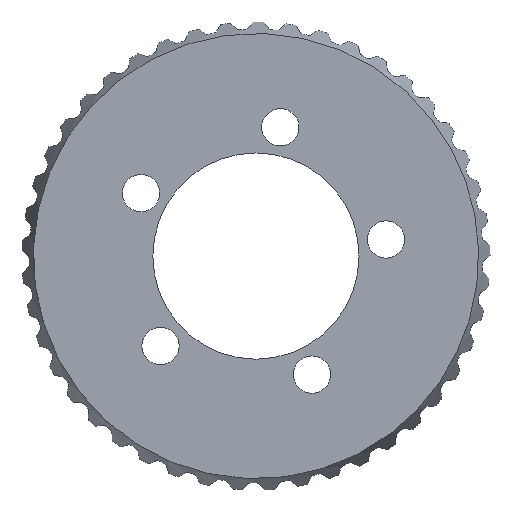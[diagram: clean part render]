
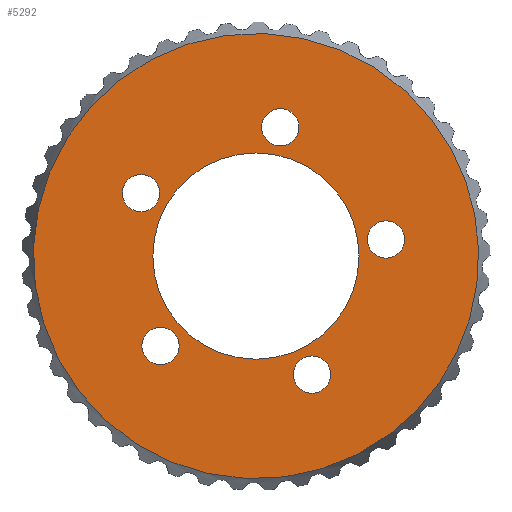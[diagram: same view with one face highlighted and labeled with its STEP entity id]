
A CAD part, front view. The second image highlights one B-rep face of the part: STEP entity #5292.
In plain terms, the highlighted planar face has unit normal (0, -1, 0).
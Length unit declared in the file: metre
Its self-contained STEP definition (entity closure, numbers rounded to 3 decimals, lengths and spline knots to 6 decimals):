
#109=PLANE('',#5831);
#1590=ORIENTED_EDGE('',*,*,#3449,.F.);
#1591=ORIENTED_EDGE('',*,*,#3450,.F.);
#1592=ORIENTED_EDGE('',*,*,#3451,.F.);
#1593=ORIENTED_EDGE('',*,*,#3452,.F.);
#1594=ORIENTED_EDGE('',*,*,#3453,.F.);
#1595=ORIENTED_EDGE('',*,*,#2794,.F.);
#1596=ORIENTED_EDGE('',*,*,#3454,.T.);
#2794=EDGE_CURVE('',#3726,#3726,#4385,.T.);
#3449=EDGE_CURVE('',#4379,#4379,#4629,.T.);
#3450=EDGE_CURVE('',#4380,#4380,#4630,.T.);
#3451=EDGE_CURVE('',#4381,#4381,#4631,.T.);
#3452=EDGE_CURVE('',#4382,#4382,#4632,.T.);
#3453=EDGE_CURVE('',#4383,#4383,#4633,.T.);
#3454=EDGE_CURVE('',#4384,#4384,#4634,.F.);
#3726=VERTEX_POINT('',#6774);
#4379=VERTEX_POINT('',#9394);
#4380=VERTEX_POINT('',#9396);
#4381=VERTEX_POINT('',#9398);
#4382=VERTEX_POINT('',#9400);
#4383=VERTEX_POINT('',#9402);
#4384=VERTEX_POINT('',#9404);
#4385=CIRCLE('',#5585,0.019198);
#4629=CIRCLE('',#5832,0.001607);
#4630=CIRCLE('',#5833,0.001607);
#4631=CIRCLE('',#5834,0.001607);
#4632=CIRCLE('',#5835,0.001607);
#4633=CIRCLE('',#5836,0.001607);
#4634=CIRCLE('',#5837,0.00889);
#4647=EDGE_LOOP('',(#1590));
#4648=EDGE_LOOP('',(#1591));
#4649=EDGE_LOOP('',(#1592));
#4650=EDGE_LOOP('',(#1593));
#4651=EDGE_LOOP('',(#1594));
#4652=EDGE_LOOP('',(#1595));
#4653=EDGE_LOOP('',(#1596));
#4950=FACE_BOUND('',#4647,.T.);
#4951=FACE_BOUND('',#4648,.T.);
#4952=FACE_BOUND('',#4649,.T.);
#4953=FACE_BOUND('',#4650,.T.);
#4954=FACE_BOUND('',#4651,.T.);
#4955=FACE_BOUND('',#4652,.T.);
#4956=FACE_BOUND('',#4653,.T.);
#5292=ADVANCED_FACE('',(#4950,#4951,#4952,#4953,#4954,#4955,#4956),#109,
 .T.);
#5585=AXIS2_PLACEMENT_3D('',#6773,#5983,#5984);
#5831=AXIS2_PLACEMENT_3D('',#9392,#6475,#6476);
#5832=AXIS2_PLACEMENT_3D('',#9393,#6477,#6478);
#5833=AXIS2_PLACEMENT_3D('',#9395,#6479,#6480);
#5834=AXIS2_PLACEMENT_3D('',#9397,#6481,#6482);
#5835=AXIS2_PLACEMENT_3D('',#9399,#6483,#6484);
#5836=AXIS2_PLACEMENT_3D('',#9401,#6485,#6486);
#5837=AXIS2_PLACEMENT_3D('',#9403,#6487,#6488);
#5983=DIRECTION('',(0.,1.,0.));
#5984=DIRECTION('',(0.607,0.,-0.794));
#6475=DIRECTION('',(0.,-1.,0.));
#6476=DIRECTION('',(0.607,0.,-0.794));
#6477=DIRECTION('',(0.,-1.,0.));
#6478=DIRECTION('',(0.,0.,-1.));
#6479=DIRECTION('',(0.,-1.,0.));
#6480=DIRECTION('',(0.,0.,-1.));
#6481=DIRECTION('',(0.,-1.,0.));
#6482=DIRECTION('',(0.,0.,-1.));
#6483=DIRECTION('',(0.,-1.,0.));
#6484=DIRECTION('',(0.,0.,-1.));
#6485=DIRECTION('',(0.,-1.,0.));
#6486=DIRECTION('',(0.,0.,-1.));
#6487=DIRECTION('',(0.,-1.,0.));
#6488=DIRECTION('',(0.,0.,-1.));
#6773=CARTESIAN_POINT('',(0.,0.010262,-0.029776));
#6774=CARTESIAN_POINT('',(0.011658,0.010262,-0.045028));
#9392=CARTESIAN_POINT('',(0.,0.010262,-0.029776));
#9393=CARTESIAN_POINT('',(0.002102,0.010262,-0.01867));
#9394=CARTESIAN_POINT('',(0.002102,0.010262,-0.020276));
#9395=CARTESIAN_POINT('',(0.011212,0.010262,-0.028343));
#9396=CARTESIAN_POINT('',(0.011212,0.010262,-0.029949));
#9397=CARTESIAN_POINT('',(0.004827,0.010262,-0.039996));
#9398=CARTESIAN_POINT('',(0.004827,0.010262,-0.041603));
#9399=CARTESIAN_POINT('',(-0.008228,0.010262,-0.037525));
#9400=CARTESIAN_POINT('',(-0.008228,0.010262,-0.039132));
#9401=CARTESIAN_POINT('',(-0.009913,0.010262,-0.024345));
#9402=CARTESIAN_POINT('',(-0.009913,0.010262,-0.025951));
#9403=CARTESIAN_POINT('',(0.,0.010262,-0.029776));
#9404=CARTESIAN_POINT('',(0.,0.010262,-0.038666));
